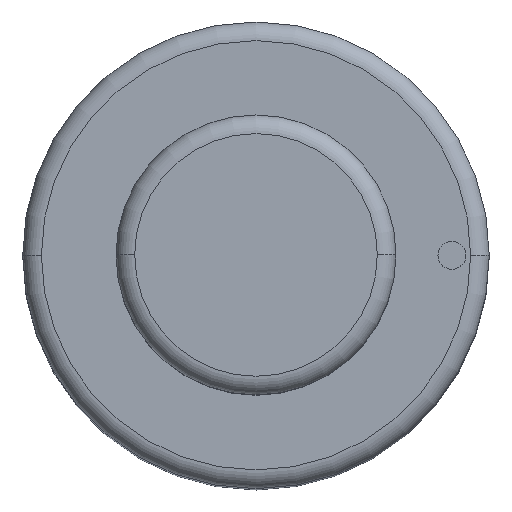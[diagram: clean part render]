
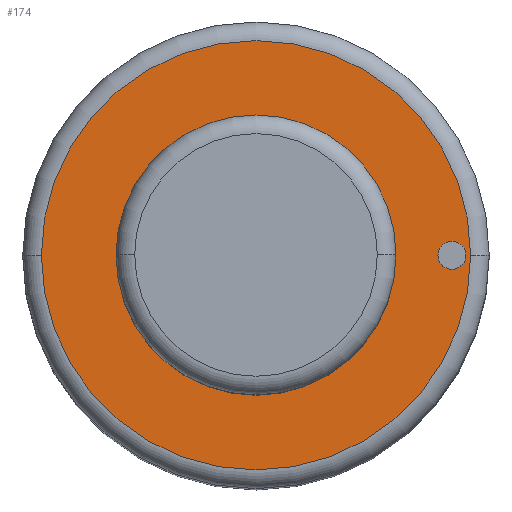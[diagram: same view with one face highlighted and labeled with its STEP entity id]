
A CAD part, top view. The second image highlights one B-rep face of the part: STEP entity #174.
In plain terms, the highlighted planar face has unit normal (0, 0, 1).
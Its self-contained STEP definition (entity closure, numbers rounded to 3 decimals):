
#99=FACE_BOUND('',#225,.T.);
#100=FACE_BOUND('',#226,.T.);
#101=FACE_BOUND('',#227,.T.);
#174=ADVANCED_FACE('',(#99,#100,#101),#180,.T.);
#180=PLANE('',#475);
#225=EDGE_LOOP('',(#307,#308));
#226=EDGE_LOOP('',(#309,#310));
#227=EDGE_LOOP('',(#311,#312));
#307=ORIENTED_EDGE('',*,*,#367,.F.);
#308=ORIENTED_EDGE('',*,*,#368,.F.);
#309=ORIENTED_EDGE('',*,*,#390,.F.);
#310=ORIENTED_EDGE('',*,*,#391,.F.);
#311=ORIENTED_EDGE('',*,*,#363,.T.);
#312=ORIENTED_EDGE('',*,*,#361,.T.);
#329=VERTEX_POINT('',#630);
#330=VERTEX_POINT('',#632);
#331=VERTEX_POINT('',#638);
#334=VERTEX_POINT('',#643);
#346=VERTEX_POINT('',#692);
#347=VERTEX_POINT('',#693);
#361=EDGE_CURVE('',#330,#329,#404,.T.);
#363=EDGE_CURVE('',#329,#330,#405,.T.);
#367=EDGE_CURVE('',#334,#331,#409,.T.);
#368=EDGE_CURVE('',#331,#334,#410,.T.);
#390=EDGE_CURVE('',#346,#347,#422,.T.);
#391=EDGE_CURVE('',#347,#346,#423,.T.);
#404=CIRCLE('',#440,7.5);
#405=CIRCLE('',#442,7.5);
#409=CIRCLE('',#447,11.5);
#410=CIRCLE('',#449,11.5);
#422=CIRCLE('',#473,0.75);
#423=CIRCLE('',#474,0.75);
#440=AXIS2_PLACEMENT_3D('',#631,#512,#513);
#442=AXIS2_PLACEMENT_3D('',#635,#517,#518);
#447=AXIS2_PLACEMENT_3D('',#644,#527,#528);
#449=AXIS2_PLACEMENT_3D('',#646,#531,#532);
#473=AXIS2_PLACEMENT_3D('',#691,#589,#590);
#474=AXIS2_PLACEMENT_3D('',#694,#591,#592);
#475=AXIS2_PLACEMENT_3D('',#695,#593,#594);
#512=DIRECTION('',(0.,0.,-1.));
#513=DIRECTION('',(0.,1.,0.));
#517=DIRECTION('',(0.,0.,-1.));
#518=DIRECTION('',(0.,-1.,0.));
#527=DIRECTION('',(0.,0.,-1.));
#528=DIRECTION('',(0.,1.,0.));
#531=DIRECTION('',(0.,0.,-1.));
#532=DIRECTION('',(0.,-1.,0.));
#589=DIRECTION('',(0.,0.,1.));
#590=DIRECTION('',(0.,1.,0.));
#591=DIRECTION('',(0.,0.,1.));
#592=DIRECTION('',(0.,-1.,0.));
#593=DIRECTION('',(0.,0.,1.));
#594=DIRECTION('',(0.,-1.,0.));
#630=CARTESIAN_POINT('',(-7.5,0.,44.));
#631=CARTESIAN_POINT('',(0.,0.,44.));
#632=CARTESIAN_POINT('',(7.5,0.,44.));
#635=CARTESIAN_POINT('',(0.,0.,44.));
#638=CARTESIAN_POINT('',(-11.5,0.,44.));
#643=CARTESIAN_POINT('',(11.5,0.,44.));
#644=CARTESIAN_POINT('',(0.,0.,44.));
#646=CARTESIAN_POINT('',(0.,0.,44.));
#691=CARTESIAN_POINT('',(10.5,0.,44.));
#692=CARTESIAN_POINT('',(9.75,0.,44.));
#693=CARTESIAN_POINT('',(11.25,0.,44.));
#694=CARTESIAN_POINT('',(10.5,0.,44.));
#695=CARTESIAN_POINT('',(0.,0.,44.));
